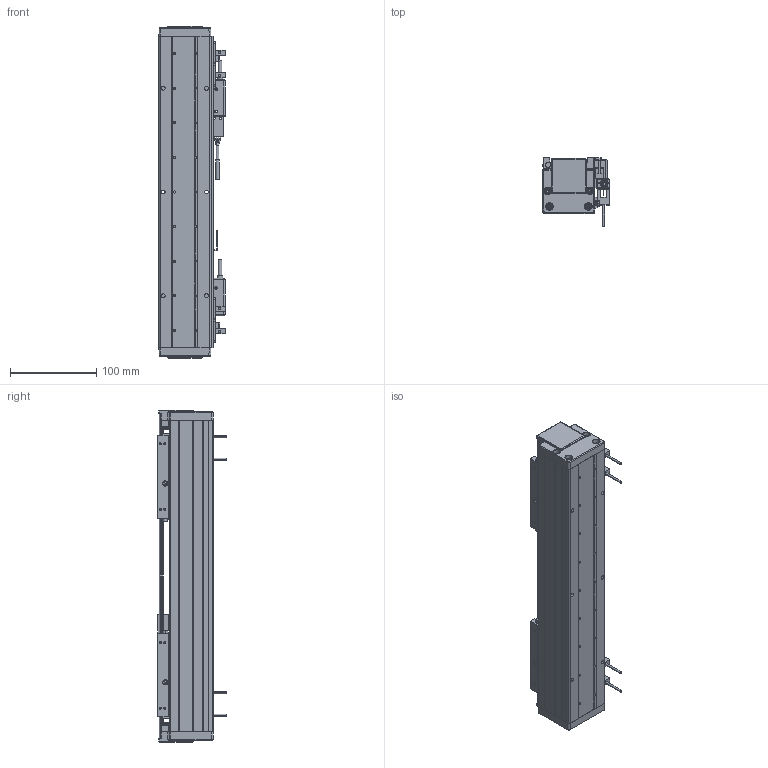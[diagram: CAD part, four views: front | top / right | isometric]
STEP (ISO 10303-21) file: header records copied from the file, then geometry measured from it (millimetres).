
FILE_DESCRIPTION (( 'STEP AP203' ), '1' );
FILE_NAME ('DA-A60-2-B1-T120-C010-0.2 眻盄萇儂.STEP', '2025-08-13T01:04:37', ( '' ), ( '' ), 'SwSTEP 2.0', 'SolidWorks 2019', '' );
FILE_SCHEMA (( 'CONFIG_CONTROL_DESIGN' ));
Length unit declared in the file: millimetre
Products named in the file (27): 葩璃 DA60-DG-H-N-00 傷裔^DA-A60-2-B1-T60-C010-0.2-N; DA60-YT-B1-HT-B-01 珨极趙賑雄怢啣-1; 葩璃 鞠褒情蹟譫 M3^DA-A60-2-B1-T60-C010-0.2-N(GB_FASTENER_NUT_STNAB M3-C); AU60-V 幗紩賑怢-1; DA60-YT-B1-HT-B-01 珨极趙賑雄怢啣; ｸｴｼ BAKM01-W030-C1-TP-0.2 ﾖｱﾏﾟｵ扈巐ｯﾗﾓ^DA-A60-2-B1-T60-C010-0.2-N; 复件 DA60-B1-GT-00 滑块钢轨^DA60-YT-B1-HT-B-01 一体化滑动台板; 葩璃 XD-U-02  棠掑喜^DA-A60-2-B1-T60-C010-0.2-N; IU-AU60-L-00 菁釱(360); ｸｴｼ DA-A60-GYP-DMT-00 ｹ箏邵ﾐﾓｦﾆｬ^DA-A60-2-B1-T60-C010-0.2-N(ﾄｬﾈﾏ); 复件 DA60-GT-T-00 底座钢轨^AU60-L 底座导轨; DA60-T-002-00  裔啣; DA60-B1-HT-B-03 賑雄怢啣; 葩璃 DA60-HK-DP-01 結え^AU60-V 幗紩賑怢; DA-A60-2-B1-T120-C010-0.2 眻盄萇儂; 葩璃 DA60-XJ-00 砎蝶結輸^DA-A60-2-B1-T60-C010-0.2-N; 葩璃 AKM01-W030-TRL^DA-A60-2-B1-T60-C010-0.2-N; AU60-L 菁釱絳寢; ｸｴｼ DA60-DMT-DTJ-ZJ-00 ﾖﾐｼ荼ﾁﾊﾍｷﾖｧｼﾜ^DA-A60-2-B1-T60-C010-0.2-N; AU60-V 幗紩賑怢; 复件 纯铜油杯 6x6mm^AU60-V 滚珠滑台; 复件 DA60-HC-XJ-01 中间缓冲橡胶^DA-A60-2-B1-T60-C010-0.2-N; ｸｴｼ DA60-GYP-ZJ-01 ﾖﾐｼ荵箏邵ﾐﾓｦﾆｬ^DA-A60-2-B1-T60-C010-0.2-N(ﾄｬﾈﾏ); 葩璃 DMT-010 1米m 0.2M^DA-A60-2-B1-T60-C010-0.2-N; 葩璃 DA60-DMT-DTJ-00 黍杅芛盓殤^DA-A60-2-B1-T60-C010-0.2-N; 葩璃 PM-T45^DA-A60-2-B1-T60-C010-0.2-N; 葩璃 PM-Y65^DA-A60-2-B1-T60-C010-0.2-N
Assembly tree (51 placements, depth 4):
  DA-A60-2-B1-T120-C010-0.2 眻盄萇儂
    AU60-L 菁釱絳寢
      IU-AU60-L-00 菁釱(360)
      复件 DA60-GT-T-00 底座钢轨^AU60-L 底座导轨  x2
    AU60-V 幗紩賑怢
      DA60-YT-B1-HT-B-01 珨极趙賑雄怢啣
        DA60-B1-HT-B-03 賑雄怢啣
        复件 DA60-B1-GT-00 滑块钢轨^DA60-YT-B1-HT-B-01 一体化滑动台板  x2
      葩璃 DA60-HK-DP-01 結え^AU60-V 幗紩賑怢  x2
      复件 纯铜油杯 6x6mm^AU60-V 滚珠滑台
    AU60-V 幗紩賑怢-1
      DA60-YT-B1-HT-B-01 珨极趙賑雄怢啣-1
        DA60-B1-HT-B-03 賑雄怢啣
        复件 DA60-B1-GT-00 滑块钢轨^DA60-YT-B1-HT-B-01 一体化滑动台板  x2
      葩璃 DA60-HK-DP-01 結え^AU60-V 幗紩賑怢  x2
      复件 纯铜油杯 6x6mm^AU60-V 滚珠滑台
    ｸｴｼ DA60-DMT-DTJ-ZJ-00 ﾖﾐｼ荼ﾁﾊﾍｷﾖｧｼﾜ^DA-A60-2-B1-T60-C010-0.2-N
    葩璃 PM-Y65^DA-A60-2-B1-T60-C010-0.2-N
    复件 DA60-HC-XJ-01 中间缓冲橡胶^DA-A60-2-B1-T60-C010-0.2-N  x2
    ｸｴｼ DA60-GYP-ZJ-01 ﾖﾐｼ荵箏邵ﾐﾓｦﾆｬ^DA-A60-2-B1-T60-C010-0.2-N(ﾄｬﾈﾏ)
    ｸｴｼ DA-A60-GYP-DMT-00 ｹ箏邵ﾐﾓｦﾆｬ^DA-A60-2-B1-T60-C010-0.2-N(ﾄｬﾈﾏ)  x2
    葩璃 DA60-DMT-DTJ-00 黍杅芛盓殤^DA-A60-2-B1-T60-C010-0.2-N
    葩璃 DMT-010 1米m 0.2M^DA-A60-2-B1-T60-C010-0.2-N  x2
    ｸｴｼ BAKM01-W030-C1-TP-0.2 ﾖｱﾏﾟｵ扈巐ｯﾗﾓ^DA-A60-2-B1-T60-C010-0.2-N  x2
    葩璃 DA60-XJ-00 砎蝶結輸^DA-A60-2-B1-T60-C010-0.2-N  x2
    葩璃 DA60-DG-H-N-00 傷裔^DA-A60-2-B1-T60-C010-0.2-N  x2
    DA60-T-002-00  裔啣
    葩璃 AKM01-W030-TRL^DA-A60-2-B1-T60-C010-0.2-N
    葩璃 PM-T45^DA-A60-2-B1-T60-C010-0.2-N  x4
    葩璃 XD-U-02  棠掑喜^DA-A60-2-B1-T60-C010-0.2-N
    葩璃 鞠褒情蹟譫 M3^DA-A60-2-B1-T60-C010-0.2-N(GB_FASTENER_NUT_STNAB M3-C)  x8
Bounding box: 76.95 x 80 x 384 mm (x, y, z)
Volume: 1030159.4 mm3; surface area: 381898.4 mm2
Topology: 57 solids, 61 shells, 3515 faces, 8809 edges, 5342 vertices
Faces by surface type: plane 1356, cylinder 1211, bspline 592, cone 342, torus 12, sphere 2
Entity records: 73663 total; most frequent: CARTESIAN_POINT 22807, ORIENTED_EDGE 10172, DIRECTION 9401, EDGE_CURVE 5086, AXIS2_PLACEMENT_3D 3262, VERTEX_POINT 3181, VECTOR 2877, LINE 2877
